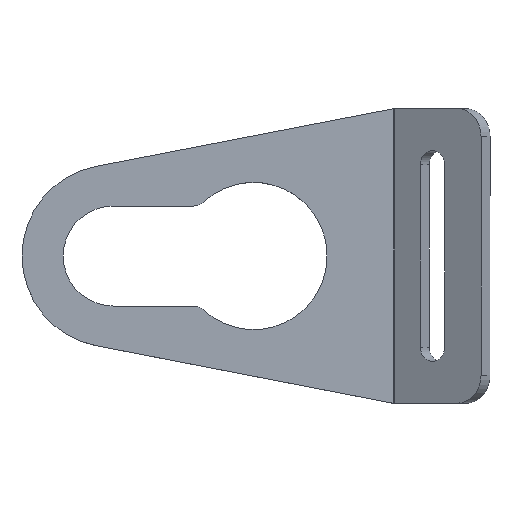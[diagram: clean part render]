
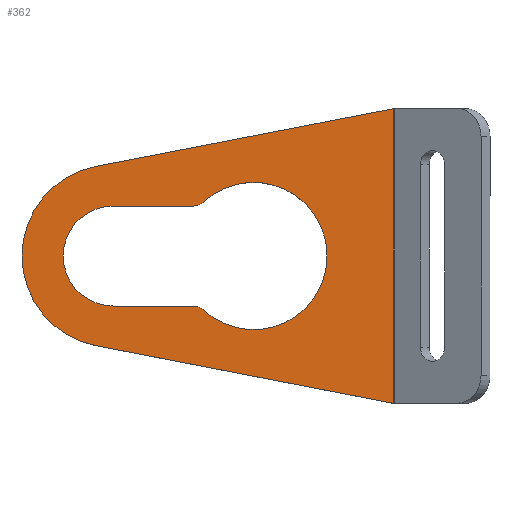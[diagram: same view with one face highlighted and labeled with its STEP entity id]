
A CAD part, top view. The second image highlights one B-rep face of the part: STEP entity #362.
In plain terms, the highlighted planar face has unit normal (0, 0, 1).
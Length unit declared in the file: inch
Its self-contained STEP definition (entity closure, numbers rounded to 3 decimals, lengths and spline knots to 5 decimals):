
#3 = CARTESIAN_POINT ( 'NONE',  ( 0.7874, 0., 0.1 ) ) ;
#12 = CARTESIAN_POINT ( 'NONE',  ( 1.5748, 0.82682, 0.1 ) ) ;
#20 = LINE ( 'NONE', #694, #623 ) ;
#23 = AXIS2_PLACEMENT_3D ( 'NONE', #566, #757, #288 ) ;
#24 = AXIS2_PLACEMENT_3D ( 'NONE', #538, #393, #803 ) ;
#29 = EDGE_CURVE ( 'NONE', #612, #64, #574, .T. ) ;
#40 = DIRECTION ( 'NONE',  ( 1., 0., 0. ) ) ;
#52 = EDGE_CURVE ( 'NONE', #64, #699, #632, .T. ) ;
#56 = ORIENTED_EDGE ( 'NONE', *, *, #109, .T. ) ;
#64 = VERTEX_POINT ( 'NONE', #620 ) ;
#65 = CARTESIAN_POINT ( 'NONE',  ( -0.09746, -0.50245, 0.1 ) ) ;
#109 = EDGE_CURVE ( 'NONE', #290, #346, #549, .T. ) ;
#134 = ORIENTED_EDGE ( 'NONE', *, *, #345, .T. ) ;
#138 = ORIENTED_EDGE ( 'NONE', *, *, #733, .F. ) ;
#147 = DIRECTION ( 'NONE',  ( 0., 0., 1. ) ) ;
#177 = ORIENTED_EDGE ( 'NONE', *, *, #52, .F. ) ;
#241 = VECTOR ( 'NONE', #793, 39.37008 ) ;
#258 = DIRECTION ( 'NONE',  ( 1., 0., 0. ) ) ;
#275 = FACE_BOUND ( 'NONE', #523, .T. ) ;
#282 = ORIENTED_EDGE ( 'NONE', *, *, #450, .T. ) ;
#288 = DIRECTION ( 'NONE',  ( 1., 0., 0. ) ) ;
#290 = VERTEX_POINT ( 'NONE', #475 ) ;
#313 = AXIS2_PLACEMENT_3D ( 'NONE', #3, #807, #323 ) ;
#316 = ORIENTED_EDGE ( 'NONE', *, *, #633, .T. ) ;
#322 = CARTESIAN_POINT ( 'NONE',  ( 0., 0.28051, 0.1 ) ) ;
#323 = DIRECTION ( 'NONE',  ( 1., 0., 0. ) ) ;
#326 = CIRCLE ( 'NONE', #660, 0.07874 ) ;
#327 = CIRCLE ( 'NONE', #748, 0.51181 ) ;
#331 = FACE_OUTER_BOUND ( 'NONE', #569, .T. ) ;
#341 = DIRECTION ( 'NONE',  ( 0.982, -0.19, 0. ) ) ;
#345 = EDGE_CURVE ( 'NONE', #815, #699, #326, .T. ) ;
#346 = VERTEX_POINT ( 'NONE', #12 ) ;
#351 = DIRECTION ( 'NONE',  ( -0.982, -0.19, 0. ) ) ;
#359 = CARTESIAN_POINT ( 'NONE',  ( 1.5748, -0.781, 0.1 ) ) ;
#362 = ADVANCED_FACE ( 'NONE', ( #331, #275 ), #543, .T. ) ;
#370 = VECTOR ( 'NONE', #625, 39.37008 ) ;
#372 = CIRCLE ( 'NONE', #813, 0.07874 ) ;
#386 = EDGE_CURVE ( 'NONE', #815, #602, #787, .T. ) ;
#393 = DIRECTION ( 'NONE',  ( 0., 0., 1. ) ) ;
#398 = LINE ( 'NONE', #322, #241 ) ;
#406 = DIRECTION ( 'NONE',  ( 0., 0., 1. ) ) ;
#422 = ORIENTED_EDGE ( 'NONE', *, *, #386, .F. ) ;
#433 = CARTESIAN_POINT ( 'NONE',  ( 0., -0.28051, 0.1 ) ) ;
#435 = CARTESIAN_POINT ( 'NONE',  ( 0., 0.28051, 0.1 ) ) ;
#450 = EDGE_CURVE ( 'NONE', #755, #602, #372, .T. ) ;
#453 = VECTOR ( 'NONE', #341, 39.37008 ) ;
#464 = ORIENTED_EDGE ( 'NONE', *, *, #29, .F. ) ;
#475 = CARTESIAN_POINT ( 'NONE',  ( 1.5748, -0.82682, 0.1 ) ) ;
#493 = DIRECTION ( 'NONE',  ( 1., 0., 0. ) ) ;
#520 = EDGE_CURVE ( 'NONE', #346, #776, #20, .T. ) ;
#523 = EDGE_LOOP ( 'NONE', ( #422, #134, #177, #464, #138, #282 ) ) ;
#533 = LINE ( 'NONE', #65, #453 ) ;
#538 = CARTESIAN_POINT ( 'NONE',  ( 0., 0., 0.1 ) ) ;
#543 = PLANE ( 'NONE',  #24 ) ;
#549 = LINE ( 'NONE', #359, #370 ) ;
#566 = CARTESIAN_POINT ( 'NONE',  ( 0., 0., 0.1 ) ) ;
#569 = EDGE_LOOP ( 'NONE', ( #732, #316, #819, #56 ) ) ;
#574 = CIRCLE ( 'NONE', #23, 0.28051 ) ;
#579 = CARTESIAN_POINT ( 'NONE',  ( 0.45106, -0.28051, 0.1 ) ) ;
#594 = CARTESIAN_POINT ( 'NONE',  ( -0.09746, 0.50245, 0.1 ) ) ;
#597 = CARTESIAN_POINT ( 'NONE',  ( 0.50487, -0.30177, 0.1 ) ) ;
#602 = VERTEX_POINT ( 'NONE', #700 ) ;
#612 = VERTEX_POINT ( 'NONE', #435 ) ;
#620 = CARTESIAN_POINT ( 'NONE',  ( 0., -0.28051, 0.1 ) ) ;
#623 = VECTOR ( 'NONE', #351, 39.37008 ) ;
#625 = DIRECTION ( 'NONE',  ( 0., 1., 0. ) ) ;
#628 = DIRECTION ( 'NONE',  ( 1., 0., 0. ) ) ;
#632 = LINE ( 'NONE', #433, #731 ) ;
#633 = EDGE_CURVE ( 'NONE', #776, #670, #327, .T. ) ;
#636 = DIRECTION ( 'NONE',  ( 0., 0., 1. ) ) ;
#660 = AXIS2_PLACEMENT_3D ( 'NONE', #790, #406, #258 ) ;
#670 = VERTEX_POINT ( 'NONE', #847 ) ;
#694 = CARTESIAN_POINT ( 'NONE',  ( -0.09746, 0.50245, 0.1 ) ) ;
#699 = VERTEX_POINT ( 'NONE', #579 ) ;
#700 = CARTESIAN_POINT ( 'NONE',  ( 0.50487, 0.30177, 0.1 ) ) ;
#731 = VECTOR ( 'NONE', #493, 39.37008 ) ;
#732 = ORIENTED_EDGE ( 'NONE', *, *, #520, .T. ) ;
#733 = EDGE_CURVE ( 'NONE', #755, #612, #398, .T. ) ;
#748 = AXIS2_PLACEMENT_3D ( 'NONE', #834, #636, #40 ) ;
#755 = VERTEX_POINT ( 'NONE', #851 ) ;
#757 = DIRECTION ( 'NONE',  ( 0., 0., 1. ) ) ;
#769 = EDGE_CURVE ( 'NONE', #670, #290, #533, .T. ) ;
#776 = VERTEX_POINT ( 'NONE', #594 ) ;
#787 = CIRCLE ( 'NONE', #313, 0.41339 ) ;
#790 = CARTESIAN_POINT ( 'NONE',  ( 0.45106, -0.35925, 0.1 ) ) ;
#793 = DIRECTION ( 'NONE',  ( -1., 0., 0. ) ) ;
#803 = DIRECTION ( 'NONE',  ( 1., 0., 0. ) ) ;
#807 = DIRECTION ( 'NONE',  ( 0., 0., 1. ) ) ;
#813 = AXIS2_PLACEMENT_3D ( 'NONE', #821, #147, #628 ) ;
#815 = VERTEX_POINT ( 'NONE', #597 ) ;
#819 = ORIENTED_EDGE ( 'NONE', *, *, #769, .T. ) ;
#821 = CARTESIAN_POINT ( 'NONE',  ( 0.45106, 0.35925, 0.1 ) ) ;
#834 = CARTESIAN_POINT ( 'NONE',  ( 0., 0., 0.1 ) ) ;
#847 = CARTESIAN_POINT ( 'NONE',  ( -0.09746, -0.50245, 0.1 ) ) ;
#851 = CARTESIAN_POINT ( 'NONE',  ( 0.45106, 0.28051, 0.1 ) ) ;
